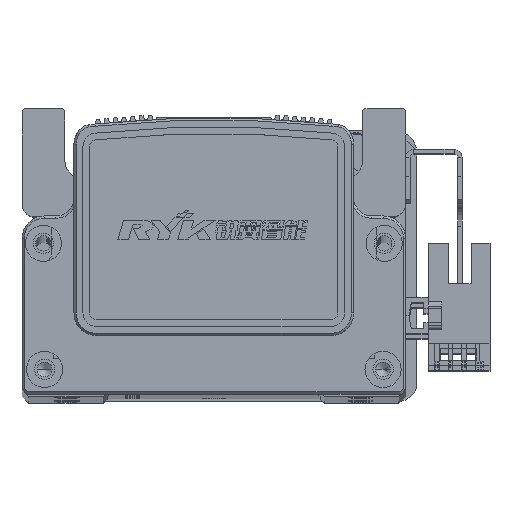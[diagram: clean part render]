
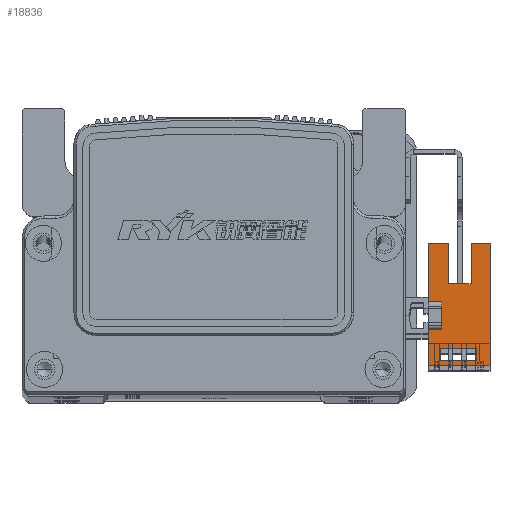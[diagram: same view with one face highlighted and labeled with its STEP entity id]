
A CAD part, top view. The second image highlights one B-rep face of the part: STEP entity #18836.
In plain terms, the highlighted planar face has unit normal (0, 0, 1) as drawn and (1, 0, 0) by its records, which use the part's own axes.
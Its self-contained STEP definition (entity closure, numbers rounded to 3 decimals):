
#1710 = VERTEX_POINT ( 'NONE', #15093 ) ;
#1720 = VERTEX_POINT ( 'NONE', #15050 ) ;
#1731 = VERTEX_POINT ( 'NONE', #15098 ) ;
#1736 = VERTEX_POINT ( 'NONE', #15065 ) ;
#1748 = VERTEX_POINT ( 'NONE', #15084 ) ;
#1764 = VERTEX_POINT ( 'NONE', #15126 ) ;
#1770 = VERTEX_POINT ( 'NONE', #15144 ) ;
#1773 = VERTEX_POINT ( 'NONE', #15108 ) ;
#1776 = VERTEX_POINT ( 'NONE', #15127 ) ;
#1781 = VERTEX_POINT ( 'NONE', #15141 ) ;
#1783 = VERTEX_POINT ( 'NONE', #15136 ) ;
#1837 = VERTEX_POINT ( 'NONE', #15177 ) ;
#3760 = ORIENTED_EDGE ( 'NONE', *, *, #26409, .T. ) ;
#3762 = ORIENTED_EDGE ( 'NONE', *, *, #26470, .F. ) ;
#3765 = ORIENTED_EDGE ( 'NONE', *, *, #26254, .F. ) ;
#3766 = ORIENTED_EDGE ( 'NONE', *, *, #26439, .F. ) ;
#3768 = ORIENTED_EDGE ( 'NONE', *, *, #26445, .T. ) ;
#3769 = ORIENTED_EDGE ( 'NONE', *, *, #26495, .T. ) ;
#3770 = ORIENTED_EDGE ( 'NONE', *, *, #26354, .F. ) ;
#3780 = ORIENTED_EDGE ( 'NONE', *, *, #26332, .T. ) ;
#3783 = ORIENTED_EDGE ( 'NONE', *, *, #26420, .T. ) ;
#3787 = ORIENTED_EDGE ( 'NONE', *, *, #26381, .T. ) ;
#3803 = ORIENTED_EDGE ( 'NONE', *, *, #26475, .F. ) ;
#3809 = ORIENTED_EDGE ( 'NONE', *, *, #26282, .F. ) ;
#3816 = ORIENTED_EDGE ( 'NONE', *, *, #26329, .F. ) ;
#3818 = ORIENTED_EDGE ( 'NONE', *, *, #26488, .F. ) ;
#3835 = ORIENTED_EDGE ( 'NONE', *, *, #26378, .F. ) ;
#3844 = ORIENTED_EDGE ( 'NONE', *, *, #26436, .F. ) ;
#5327 = VERTEX_POINT ( 'NONE', #11793 ) ;
#5330 = VERTEX_POINT ( 'NONE', #11835 ) ;
#5349 = VERTEX_POINT ( 'NONE', #12060 ) ;
#5382 = VERTEX_POINT ( 'NONE', #12008 ) ;
#11793 = CARTESIAN_POINT ( 'NONE',  ( 3.2, 16.1, -6.5 ) ) ;
#11835 = CARTESIAN_POINT ( 'NONE',  ( 3.2, -3.1, 3. ) ) ;
#12008 = CARTESIAN_POINT ( 'NONE',  ( 3.2, 3.1, 3. ) ) ;
#12060 = CARTESIAN_POINT ( 'NONE',  ( 3.2, -11.1, 3. ) ) ;
#15050 = CARTESIAN_POINT ( 'NONE',  ( 3.2, 16.1, -10.7 ) ) ;
#15065 = CARTESIAN_POINT ( 'NONE',  ( 3.2, 7.1, -6.5 ) ) ;
#15084 = CARTESIAN_POINT ( 'NONE',  ( 3.2, -9.83, -7.7 ) ) ;
#15093 = CARTESIAN_POINT ( 'NONE',  ( 3.2, 16.1, 3. ) ) ;
#15098 = CARTESIAN_POINT ( 'NONE',  ( 3.2, -11.1, -10.7 ) ) ;
#15108 = CARTESIAN_POINT ( 'NONE',  ( 3.2, 7.1, -1.5 ) ) ;
#15126 = CARTESIAN_POINT ( 'NONE',  ( 3.2, 16.1, -1.5 ) ) ;
#15127 = CARTESIAN_POINT ( 'NONE',  ( 3.2, -9.83, 0.3 ) ) ;
#15136 = CARTESIAN_POINT ( 'NONE',  ( 3.2, -3.1, 0. ) ) ;
#15141 = CARTESIAN_POINT ( 'NONE',  ( 3.2, -7.33, 0.3 ) ) ;
#15144 = CARTESIAN_POINT ( 'NONE',  ( 3.2, 3.1, 0. ) ) ;
#15177 = CARTESIAN_POINT ( 'NONE',  ( 3.2, -7.33, -7.7 ) ) ;
#15552 = AXIS2_PLACEMENT_3D ( 'NONE', #56593, #56595, #56597 ) ;
#18836 = ADVANCED_FACE ( 'NONE', ( #32070, #30397 ), #56634, .T. ) ;
#23556 = EDGE_LOOP ( 'NONE', ( #3768, #3787, #3769, #3783, #3765, #3818, #3816, #3766, #3809, #3770, #3760, #3780 ) ) ;
#23608 = EDGE_LOOP ( 'NONE', ( #3803, #3762, #3844, #3835 ) ) ;
#26254 = EDGE_CURVE ( 'NONE', #5382, #1710, #37463, .T. ) ;
#26282 = EDGE_CURVE ( 'NONE', #5349, #5330, #37503, .T. ) ;
#26329 = EDGE_CURVE ( 'NONE', #1783, #1770, #37599, .T. ) ;
#26332 = EDGE_CURVE ( 'NONE', #1720, #5327, #37547, .T. ) ;
#26354 = EDGE_CURVE ( 'NONE', #1731, #5349, #37620, .T. ) ;
#26378 = EDGE_CURVE ( 'NONE', #1776, #1748, #37680, .T. ) ;
#26381 = EDGE_CURVE ( 'NONE', #1736, #1773, #37626, .T. ) ;
#26409 = EDGE_CURVE ( 'NONE', #1731, #1720, #37773, .T. ) ;
#26420 = EDGE_CURVE ( 'NONE', #1764, #1710, #37777, .T. ) ;
#26436 = EDGE_CURVE ( 'NONE', #1748, #1837, #37747, .T. ) ;
#26439 = EDGE_CURVE ( 'NONE', #5330, #1783, #37734, .T. ) ;
#26445 = EDGE_CURVE ( 'NONE', #5327, #1736, #37760, .T. ) ;
#26470 = EDGE_CURVE ( 'NONE', #1837, #1781, #37817, .T. ) ;
#26475 = EDGE_CURVE ( 'NONE', #1781, #1776, #37855, .T. ) ;
#26488 = EDGE_CURVE ( 'NONE', #1770, #5382, #37868, .T. ) ;
#26495 = EDGE_CURVE ( 'NONE', #1773, #1764, #37796, .T. ) ;
#30397 = FACE_BOUND ( 'NONE', #23608, .T. ) ;
#32070 = FACE_OUTER_BOUND ( 'NONE', #23556, .T. ) ;
#34399 = DIRECTION ( 'NONE',  ( 0., 1., 0. ) ) ;
#34444 = CARTESIAN_POINT ( 'NONE',  ( 3.2, 16.1, 3. ) ) ;
#34519 = CARTESIAN_POINT ( 'NONE',  ( 3.2, 16.1, 3. ) ) ;
#34522 = DIRECTION ( 'NONE',  ( 0., 1., 0. ) ) ;
#34692 = CARTESIAN_POINT ( 'NONE',  ( 3.2, 16.1, -10.7 ) ) ;
#34696 = DIRECTION ( 'NONE',  ( 0., 0., 1. ) ) ;
#34720 = CARTESIAN_POINT ( 'NONE',  ( 3.2, 0., 0. ) ) ;
#34723 = DIRECTION ( 'NONE',  ( 0., 1., 0. ) ) ;
#34820 = CARTESIAN_POINT ( 'NONE',  ( 3.2, -11.1, 3. ) ) ;
#34852 = DIRECTION ( 'NONE',  ( 0., 0., 1. ) ) ;
#34897 = DIRECTION ( 'NONE',  ( 0., 0., -1. ) ) ;
#34945 = CARTESIAN_POINT ( 'NONE',  ( 3.2, -9.83, -10.7 ) ) ;
#34952 = CARTESIAN_POINT ( 'NONE',  ( 3.2, 7.1, -6.5 ) ) ;
#34956 = DIRECTION ( 'NONE',  ( 0., 0., 1. ) ) ;
#37463 = LINE ( 'NONE', #34444, #37494 ) ;
#37468 = VECTOR ( 'NONE', #34522, 1000. ) ;
#37494 = VECTOR ( 'NONE', #34399, 1000. ) ;
#37503 = LINE ( 'NONE', #34519, #37468 ) ;
#37540 = VECTOR ( 'NONE', #34723, 1000. ) ;
#37547 = LINE ( 'NONE', #34692, #37552 ) ;
#37552 = VECTOR ( 'NONE', #34696, 1000. ) ;
#37599 = LINE ( 'NONE', #34720, #37540 ) ;
#37604 = VECTOR ( 'NONE', #34897, 1000. ) ;
#37609 = VECTOR ( 'NONE', #34852, 1000. ) ;
#37612 = VECTOR ( 'NONE', #34956, 1000. ) ;
#37620 = LINE ( 'NONE', #34820, #37609 ) ;
#37626 = LINE ( 'NONE', #34952, #37612 ) ;
#37680 = LINE ( 'NONE', #34945, #37604 ) ;
#37709 = VECTOR ( 'NONE', #43024, 1000. ) ;
#37734 = LINE ( 'NONE', #43245, #37753 ) ;
#37743 = VECTOR ( 'NONE', #43004, 1000. ) ;
#37747 = LINE ( 'NONE', #43289, #37792 ) ;
#37753 = VECTOR ( 'NONE', #43198, 1000. ) ;
#37760 = LINE ( 'NONE', #43321, #37788 ) ;
#37773 = LINE ( 'NONE', #42959, #37743 ) ;
#37777 = LINE ( 'NONE', #43009, #37709 ) ;
#37788 = VECTOR ( 'NONE', #43328, 1000. ) ;
#37792 = VECTOR ( 'NONE', #43301, 1000. ) ;
#37796 = LINE ( 'NONE', #43928, #37850 ) ;
#37817 = LINE ( 'NONE', #43627, #37863 ) ;
#37828 = VECTOR ( 'NONE', #43682, 1000. ) ;
#37850 = VECTOR ( 'NONE', #43930, 1000. ) ;
#37855 = LINE ( 'NONE', #43688, #37828 ) ;
#37863 = VECTOR ( 'NONE', #43657, 1000. ) ;
#37868 = LINE ( 'NONE', #43765, #37870 ) ;
#37870 = VECTOR ( 'NONE', #43774, 1000. ) ;
#42959 = CARTESIAN_POINT ( 'NONE',  ( 3.2, 16.1, -10.7 ) ) ;
#43004 = DIRECTION ( 'NONE',  ( 0., 1., 0. ) ) ;
#43009 = CARTESIAN_POINT ( 'NONE',  ( 3.2, 16.1, -10.7 ) ) ;
#43024 = DIRECTION ( 'NONE',  ( 0., 0., 1. ) ) ;
#43198 = DIRECTION ( 'NONE',  ( 0., 0., -1. ) ) ;
#43245 = CARTESIAN_POINT ( 'NONE',  ( 3.2, -3.1, 3. ) ) ;
#43289 = CARTESIAN_POINT ( 'NONE',  ( 3.2, 16.1, -7.7 ) ) ;
#43301 = DIRECTION ( 'NONE',  ( 0., 1., 0. ) ) ;
#43321 = CARTESIAN_POINT ( 'NONE',  ( 3.2, 25.1, -6.5 ) ) ;
#43328 = DIRECTION ( 'NONE',  ( 0., -1., 0. ) ) ;
#43627 = CARTESIAN_POINT ( 'NONE',  ( 3.2, -7.33, -10.7 ) ) ;
#43657 = DIRECTION ( 'NONE',  ( 0., 0., 1. ) ) ;
#43682 = DIRECTION ( 'NONE',  ( 0., -1., 0. ) ) ;
#43688 = CARTESIAN_POINT ( 'NONE',  ( 3.2, 16.1, 0.3 ) ) ;
#43765 = CARTESIAN_POINT ( 'NONE',  ( 3.2, 3.1, 3. ) ) ;
#43774 = DIRECTION ( 'NONE',  ( 0., 0., 1. ) ) ;
#43928 = CARTESIAN_POINT ( 'NONE',  ( 3.2, 25.1, -1.5 ) ) ;
#43930 = DIRECTION ( 'NONE',  ( 0., 1., 0. ) ) ;
#56593 = CARTESIAN_POINT ( 'NONE',  ( 3.2, 16.1, -10.7 ) ) ;
#56595 = DIRECTION ( 'NONE',  ( 1., 0., 0. ) ) ;
#56597 = DIRECTION ( 'NONE',  ( 0., 1., 0. ) ) ;
#56634 = PLANE ( 'NONE',  #15552 ) ;
